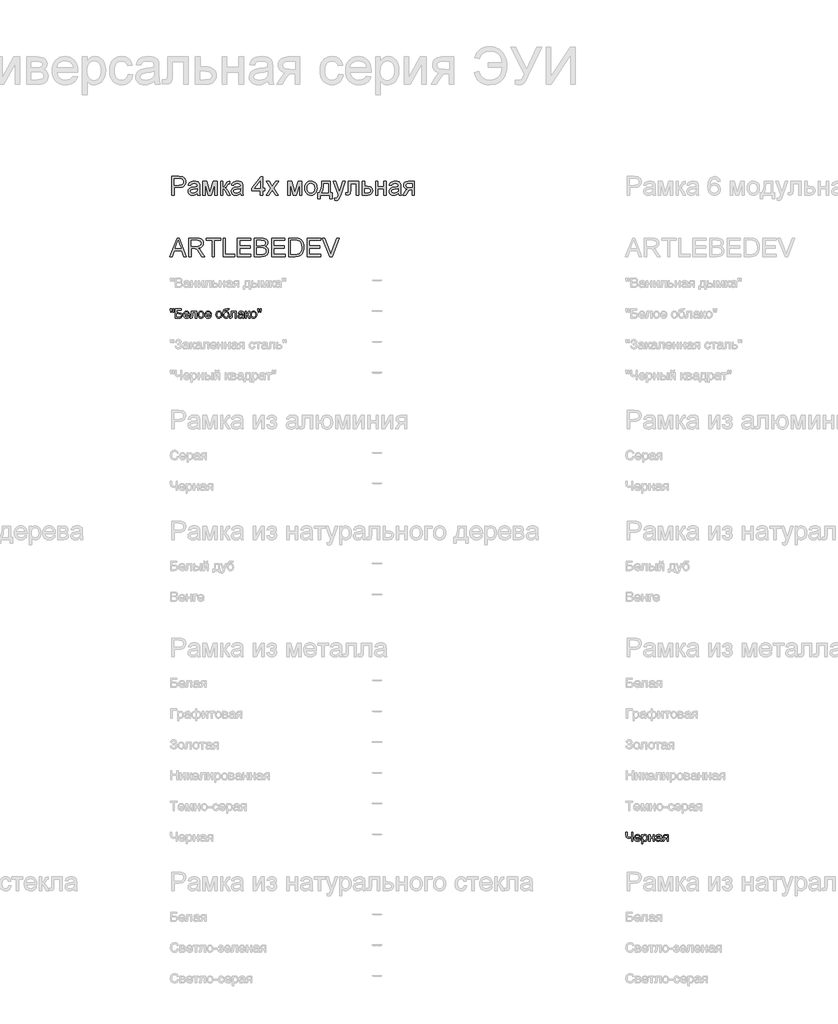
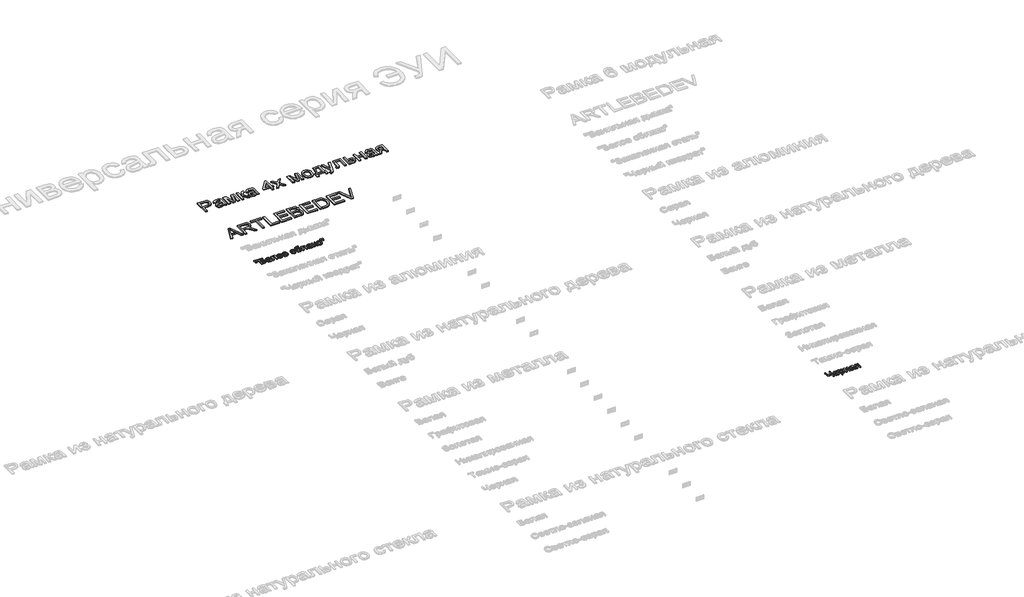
# One storey, part 120 of 168: 4 proxies.
"""IFC4 building model written with IfcOpenShell, lengths in millimetres."""

from ifc_helpers import new_model, si_unit, origin, origin_with_axes, place, context, project, spatial, polyline, outline, extrude, element, save

model = new_model("IFC4")

# Units and contexts
model_context = context("Model", 3, world=origin())
ifc_project = project(units=[si_unit("LENGTHUNIT", "METRE", prefix="MILLI")], contexts=[model_context])

# Site, building, storey
site = spatial("IfcSite", under=ifc_project)
building = spatial("IfcBuilding", under=site)
storey = spatial("IfcBuildingStorey", under=building, Name="Этаж 01", Elevation=0.0)

# Proxies
placement = place(None, origin())
element("IfcBuildingElementProxy", 1, Name="300 мм Arial 2", ObjectType="300 мм Arial 2", at=placement, inside=storey, context=model_context, shape_type="SweptSolid", body=[
    extrude(outline(polyline([(40299.0945017, -5048.4056816), (40299.0945017, -4747.0367511), (40410.7834754, -4747.0367511), (40455.8122316, -4749.9062307), (40475.8893915, -4755.2681108), (40492.4164901, -4763.9961111), (40505.7246213, -4776.4857048), (40516.1448788, -4793.1323651), (40522.8771193, -4812.7680666), (40525.1211995, -4834.224784), (40523.6059855, -4852.7246498), (40519.0603436, -4869.7437906), (40511.4842738, -4885.2822064), (40500.877776, -4899.3398971), (40486.3165468, -4910.9925593), (40466.8762826, -4919.3158895), (40442.5569835, -4924.3098875), (40413.3586494, -4925.9745536), (40336.765618, -4925.9745536), (40336.765618, -5048.4056816), (40299.0945017, -5048.4056816)]), holes=[polyline([(40336.765618, -4888.3034373), (40415.5659413, -4888.3034373), (40448.9696265, -4884.8453465), (40471.0425462, -4874.4710742), (40483.3481989, -4857.824414), (40487.4500832, -4835.5491592), (40485.0312591, -4818.6265874), (40477.7747867, -4804.352766), (40466.581977, -4793.6106117), (40452.3541408, -4787.2830414), (40414.6830245, -4784.7078674), (40336.765618, -4784.7078674), (40336.765618, -4888.3034373)])]), origin_with_axes(), (0.0, 0.0, 1.0), 20.0),
    extrude(outline(polyline([(40713.476781, -5020.1523443), (40695.4781544, -5035.584994), (40676.9460989, -5045.6833548), (40657.4575502, -5051.256767), (40636.589444, -5053.1145711), (40605.1079423, -5048.6448049), (40581.8853914, -5035.2355061), (40567.5655847, -5014.8732377), (40562.7923158, -4989.5445623), (40564.5949376, -4973.9279716), (40570.0028029, -4959.7461207), (40578.3445271, -4947.6060149), (40588.9487257, -4938.1146594), (40615.3258647, -4925.7538244), (40647.9202095, -4920.0884417), (40686.4374544, -4914.1287533), (40713.2560518, -4907.1389954), (40713.476781, -4898.7512859), (40710.883213, -4881.9390788), (40703.1025088, -4870.9394071), (40685.7016904, -4862.7724268), (40661.4582669, -4860.0501), (40639.0174652, -4861.8619189), (40623.3456922, -4867.2973753), (40612.6587202, -4877.3497509), (40605.1723216, -4893.0123268), (40567.5012053, -4888.3034373), (40574.0403078, -4867.7020455), (40583.7983777, -4851.5152378), (40597.685923, -4839.1360086), (40616.6134517, -4829.9573528), (40639.7624262, -4824.273576), (40666.3143092, -4822.3789837), (40691.7809404, -4824.0528468), (40711.9684648, -4829.074436), (40727.1895824, -4836.625214), (40737.7569927, -4845.8866432), (40744.7651447, -4857.3369703), (40749.3084874, -4871.4544419), (40751.1478973, -4904.4166687), (40751.1478973, -4951.2848348), (40753.0608837, -5016.7310418), (40760.5656764, -5048.4056816), (40722.8945601, -5048.4056816), (40713.476781, -5020.1523443)]), holes=[polyline([(40713.476781, -4944.8101117), (40652.7026754, -4956.3616064), (40620.2922716, -4962.4684475), (40605.61378, -4972.4012614), (40600.4634321, -4986.895812), (40603.2685323, -4998.0978187), (40611.683833, -5007.2764745), (40625.525393, -5013.4017097), (40644.6092715, -5015.4434548), (40664.8427813, -5013.1901776), (40682.7218462, -5006.4303459), (40697.2163968, -4996.4699409), (40707.2963635, -4984.6149436), (40711.7661297, -4972.4012614), (40713.2560518, -4955.4786896), (40713.476781, -4944.8101117)])]), origin_with_axes(), (0.0, 0.0, 1.0), 20.0),
    extrude(outline(polyline([(40802.9456823, -4827.0878733), (40867.7664898, -4827.0878733), (40917.7248647, -5004.2598421), (40971.5827888, -4827.0878733), (41033.6812696, -4827.0878733), (41033.6812696, -5048.4056816), (40996.0101533, -5048.4056816), (40996.0101533, -4870.2036431), (40941.8579236, -5048.4056816), (40892.4145835, -5048.4056816), (40840.6167986, -4861.6687808), (40840.6167986, -5048.4056816), (40802.9456823, -5048.4056816), (40802.9456823, -4827.0878733)])), origin_with_axes(), (0.0, 0.0, 1.0), 20.0),
    extrude(outline(polyline([(41090.1879441, -4827.0878733), (41127.8590604, -4827.0878733), (41127.8590604, -4921.265664), (41143.1813455, -4919.5734069), (41153.0957653, -4914.4966353), (41161.8697508, -4901.2528835), (41173.7707334, -4875.0596854), (41190.9508226, -4841.0306009), (41206.1075608, -4829.9573528), (41233.6619222, -4827.0878733), (41240.8724093, -4827.0878733), (41240.8724093, -4864.9797188), (41230.7188662, -4864.7589896), (41212.3247665, -4868.7321151), (41199.3753203, -4893.5273616), (41184.1817939, -4920.345959), (41162.8814263, -4933.4793463), (41174.8191971, -4938.7814455), (41186.6466032, -4948.1394438), (41209.9703217, -4979.0231373), (41250.2901884, -5048.4056816), (41207.4687241, -5048.4056816), (41167.9581979, -4980.4946653), (41148.0925701, -4951.7630814), (41138.8035497, -4946.5483542), (41127.8590604, -4944.8101117), (41127.8590604, -5048.4056816), (41090.1879441, -5048.4056816), (41090.1879441, -4827.0878733)])), origin_with_axes(), (0.0, 0.0, 1.0), 20.0),
    extrude(outline(polyline([(41415.1013222, -5020.1523443), (41397.1026956, -5035.584994), (41378.5706401, -5045.6833548), (41359.0820914, -5051.256767), (41338.2139852, -5053.1145711), (41306.7324835, -5048.6448049), (41283.5099326, -5035.2355061), (41269.1901259, -5014.8732377), (41264.416857, -4989.5445623), (41266.2194788, -4973.9279716), (41271.6273441, -4959.7461207), (41279.9690683, -4947.6060149), (41290.5732669, -4938.1146594), (41316.9504059, -4925.7538244), (41349.5447507, -4920.0884417), (41388.0619956, -4914.1287533), (41414.880593, -4907.1389954), (41415.1013222, -4898.7512859), (41412.5077542, -4881.9390788), (41404.72705, -4870.9394071), (41387.3262316, -4862.7724268), (41363.0828081, -4860.0501), (41340.6420064, -4861.8619189), (41324.9702334, -4867.2973753), (41314.2832614, -4877.3497509), (41306.7968628, -4893.0123268), (41269.1257465, -4888.3034373), (41275.664849, -4867.7020455), (41285.4229189, -4851.5152378), (41299.3104642, -4839.1360086), (41318.2379929, -4829.9573528), (41341.3869674, -4824.273576), (41367.9388504, -4822.3789837), (41393.4054816, -4824.0528468), (41413.593006, -4829.074436), (41428.8141236, -4836.625214), (41439.3815339, -4845.8866432), (41446.3896859, -4857.3369703), (41450.9330286, -4871.4544419), (41452.7724385, -4904.4166687), (41452.7724385, -4951.2848348), (41454.6854249, -5016.7310418), (41462.1902176, -5048.4056816), (41424.5191013, -5048.4056816), (41415.1013222, -5020.1523443)]), holes=[polyline([(41415.1013222, -4944.8101117), (41354.3272166, -4956.3616064), (41321.9168128, -4962.4684475), (41307.2383212, -4972.4012614), (41302.0879733, -4986.895812), (41304.8930735, -4998.0978187), (41313.3083742, -5007.2764745), (41327.1499342, -5013.4017097), (41346.2338127, -5015.4434548), (41366.4673225, -5013.1901776), (41384.3463874, -5006.4303459), (41398.840938, -4996.4699409), (41408.9209047, -4984.6149436), (41413.3906709, -4972.4012614), (41414.880593, -4955.4786896), (41415.1013222, -4944.8101117)])]), origin_with_axes(), (0.0, 0.0, 1.0), 20.0),
    extrude(outline(polyline([(41735.3058108, -5048.4056816), (41735.3058108, -4977.7723385), (41598.7480142, -4977.7723385), (41598.7480142, -4940.1012222), (41744.7235899, -4751.7456407), (41772.9769271, -4751.7456407), (41772.9769271, -4940.1012222), (41810.6480434, -4940.1012222), (41810.6480434, -4977.7723385), (41772.9769271, -4977.7723385), (41772.9769271, -5048.4056816), (41735.3058108, -5048.4056816)]), holes=[polyline([(41735.3058108, -4940.1012222), (41735.3058108, -4823.7033589), (41645.1011456, -4940.1012222), (41735.3058108, -4940.1012222)])]), origin_with_axes(), (0.0, 0.0, 1.0), 20.0),
    extrude(outline(polyline([(41829.4836016, -5048.4056816), (41909.9761821, -4937.1581662), (41834.1924911, -4827.0878733), (41879.5155529, -4827.0878733), (41916.0830233, -4880.0628806), (41933.1527478, -4905.0788562), (41947.941604, -4884.6246173), (41989.5858459, -4827.0878733), (42034.9089077, -4827.0878733), (41955.2992439, -4937.1581662), (42031.9658517, -5048.4056816), (41986.6427899, -5048.4056816), (41940.5103877, -4981.5247348), (41932.0491018, -4969.3110526), (41874.8066634, -5048.4056816), (41829.4836016, -5048.4056816)])), origin_with_axes(), (0.0, 0.0, 1.0), 20.0),
    extrude(outline(polyline([(42182.650317, -4827.0878733), (42247.4711245, -4827.0878733), (42297.4294995, -5004.2598421), (42351.2874236, -4827.0878733), (42413.3859043, -4827.0878733), (42413.3859043, -5048.4056816), (42375.714788, -5048.4056816), (42375.714788, -4870.2036431), (42321.5625583, -5048.4056816), (42272.1192182, -5048.4056816), (42220.3214333, -4861.6687808), (42220.3214333, -5048.4056816), (42182.650317, -5048.4056816), (42182.650317, -4827.0878733)])), origin_with_axes(), (0.0, 0.0, 1.0), 20.0),
    extrude(outline(polyline([(42460.4747997, -4937.7467774), (42462.5119463, -4909.0841715), (42468.6233859, -4884.385494), (42478.8091187, -4863.6507451), (42493.0691445, -4846.8799246), (42507.4257394, -4836.160763), (42523.2722563, -4828.504219), (42540.6086953, -4823.9102925), (42559.4350564, -4822.3789837), (42580.2180899, -4824.2436856), (42599.0099621, -4829.8377912), (42615.8106729, -4839.1613005), (42630.6202225, -4852.2142135), (42642.7074453, -4868.5550719), (42651.3411759, -4887.7424172), (42656.5214142, -4909.7762495), (42658.2481603, -4934.6565687), (42655.1947398, -4972.7139611), (42646.0344781, -5001.6846682), (42631.0340897, -5023.3805088), (42610.4602892, -5039.6133019), (42586.0237276, -5049.7392538), (42559.4350564, -5053.1145711), (42538.3485203, -5051.256767), (42519.3819042, -5045.6833548), (42502.5352081, -5036.3943344), (42487.808432, -5023.3897059), (42475.8499679, -5006.8901984), (42467.3082078, -4987.1165412), (42462.1831517, -4964.0687342), (42460.4747997, -4937.7467774)]), holes=[polyline([(42498.145916, -4937.673201), (42502.5053177, -4971.7666649), (42515.5835226, -4996.0560737), (42535.2652093, -5010.5966095), (42559.4350564, -5015.4434548), (42583.4945389, -5010.5690184), (42603.1394375, -4995.9457091), (42616.2176424, -4971.3344036), (42620.577044, -4936.4959786), (42616.1900512, -4903.3957961), (42603.0290729, -4879.4374812), (42583.3565832, -4864.8969453), (42559.4350564, -4860.0501), (42535.2652093, -4864.8785512), (42515.5835226, -4879.3639048), (42502.5053177, -4903.5981312), (42498.145916, -4937.673201)])]), origin_with_axes(), (0.0, 0.0, 1.0), 20.0),
    extrude(outline(polyline([(42733.5903929, -4827.0878733), (42874.8570791, -4827.0878733), (42874.8570791, -5010.7345653), (42903.1104163, -5010.7345653), (42903.1104163, -5109.6212456), (42865.4393, -5109.6212456), (42865.4393, -5048.4056816), (42710.0459452, -5048.4056816), (42710.0459452, -5109.6212456), (42672.3748289, -5109.6212456), (42672.3748289, -5010.7345653), (42695.9192766, -5010.7345653), (42713.0349865, -4979.8048865), (42725.0187425, -4938.8872116), (42731.8705446, -4887.9815405), (42733.5903929, -4827.0878733)]), holes=[polyline([(42766.5526197, -4864.7589896), (42763.4624109, -4910.8821947), (42757.7234518, -4950.5858591), (42749.3357423, -4983.8699826), (42738.2992825, -5010.7345653), (42837.1859628, -5010.7345653), (42837.1859628, -4864.7589896), (42766.5526197, -4864.7589896)])]), origin_with_axes(), (0.0, 0.0, 1.0), 20.0),
    extrude(outline(polyline([(42945.4904222, -5133.1656933), (42940.7815326, -5096.8925285), (42959.9113964, -5100.2034665), (42977.7904613, -5096.0463999), (42988.7533448, -5084.4581171), (42999.0540407, -5056.7198147), (43001.9970966, -5047.5963412), (42921.9459745, -4827.0878733), (42961.6772299, -4827.0878733), (43004.1308122, -4949.9604597), (43018.9196684, -4999.1094942), (43033.7085246, -4955.6994188), (43077.3393292, -4827.0878733), (43116.7762791, -4827.0878733), (43039.7417893, -5053.7031823), (43019.7290088, -5102.8522169), (43009.4834952, -5118.5423839), (42997.8768183, -5129.4132969), (42984.3939432, -5135.7592613), (42968.5198351, -5137.8745828), (42945.4904222, -5133.1656933)])), origin_with_axes(), (0.0, 0.0, 1.0), 20.0),
    extrude(outline(polyline([(43166.8082305, -4827.0878733), (43336.3282538, -4827.0878733), (43336.3282538, -5048.1849524), (43298.6571375, -5048.1849524), (43298.6571375, -4864.7589896), (43204.4793468, -4864.7589896), (43204.4793468, -4970.3411222), (43201.940961, -5019.0486984), (43197.1860862, -5030.0759612), (43187.9982334, -5039.6133019), (43174.0555058, -5046.2075866), (43155.0360066, -5048.4056816), (43124.4282246, -5046.4926952), (43124.4282246, -5010.7345653), (43141.27722, -5010.7345653), (43158.3101564, -5008.4169087), (43165.1159733, -5001.0592688), (43166.8082305, -4968.2074066), (43166.8082305, -4827.0878733)])), origin_with_axes(), (0.0, 0.0, 1.0), 20.0),
    extrude(outline(polyline([(43392.8349283, -4827.0878733), (43430.5060446, -4827.0878733), (43430.5060446, -4907.1389954), (43473.91612, -4907.1389954), (43511.5504481, -4911.857082), (43526.6979893, -4917.7546902), (43539.3991152, -4926.0113418), (43549.4422936, -4936.3419281), (43556.6159925, -4948.4613405), (43562.3549517, -4978.0666441), (43557.4713182, -5005.0231973), (43542.8204177, -5027.7675016), (43531.5885206, -5036.7967054), (43517.427363, -5043.2461366), (43480.3172667, -5048.4056816), (43392.8349283, -5048.4056816), (43392.8349283, -4827.0878733)]), holes=[polyline([(43430.5060446, -5010.7345653), (43465.6755633, -5010.7345653), (43492.9632103, -5008.7571995), (43511.1089897, -5002.8251024), (43521.290124, -4992.6991504), (43524.6838354, -4978.1402205), (43522.1730408, -4965.8345678), (43514.6406569, -4954.9636548), (43498.4998344, -4947.3484975), (43470.1637237, -4944.8101117), (43430.5060446, -4944.8101117), (43430.5060446, -5010.7345653)])]), origin_with_axes(), (0.0, 0.0, 1.0), 20.0),
    extrude(outline(polyline([(43609.4438471, -4827.0878733), (43647.1149634, -4827.0878733), (43647.1149634, -4911.847885), (43746.0016437, -4911.847885), (43746.0016437, -4827.0878733), (43783.67276, -4827.0878733), (43783.67276, -5048.4056816), (43746.0016437, -5048.4056816), (43746.0016437, -4949.5190013), (43647.1149634, -4949.5190013), (43647.1149634, -5048.4056816), (43609.4438471, -5048.4056816), (43609.4438471, -4827.0878733)])), origin_with_axes(), (0.0, 0.0, 1.0), 20.0),
    extrude(outline(polyline([(43981.4461206, -5020.1523443), (43963.447494, -5035.584994), (43944.9154385, -5045.6833548), (43925.4268898, -5051.256767), (43904.5587836, -5053.1145711), (43873.0772819, -5048.6448049), (43849.8547309, -5035.2355061), (43835.5349242, -5014.8732377), (43830.7616554, -4989.5445623), (43832.5642771, -4973.9279716), (43837.9721425, -4959.7461207), (43846.3138667, -4947.6060149), (43856.9180652, -4938.1146594), (43883.2952043, -4925.7538244), (43915.889549, -4920.0884417), (43954.4067939, -4914.1287533), (43981.2253914, -4907.1389954), (43981.4461206, -4898.7512859), (43978.8525525, -4881.9390788), (43971.0718483, -4870.9394071), (43953.6710299, -4862.7724268), (43929.4276065, -4860.0501), (43906.9868048, -4861.8619189), (43891.3150318, -4867.2973753), (43880.6280598, -4877.3497509), (43873.1416612, -4893.0123268), (43835.4705449, -4888.3034373), (43842.0096474, -4867.7020455), (43851.7677173, -4851.5152378), (43865.6552626, -4839.1360086), (43884.5827912, -4829.9573528), (43907.7317658, -4824.273576), (43934.2836488, -4822.3789837), (43959.7502799, -4824.0528468), (43979.9378044, -4829.074436), (43995.1589219, -4836.625214), (44005.7263323, -4845.8866432), (44012.7344843, -4857.3369703), (44017.2778269, -4871.4544419), (44019.1172369, -4904.4166687), (44019.1172369, -4951.2848348), (44021.0302233, -5016.7310418), (44028.535016, -5048.4056816), (43990.8638997, -5048.4056816), (43981.4461206, -5020.1523443)]), holes=[polyline([(43981.4461206, -4944.8101117), (43920.672015, -4956.3616064), (43888.2616112, -4962.4684475), (43873.5831196, -4972.4012614), (43868.4327717, -4986.895812), (43871.2378719, -4998.0978187), (43879.6531725, -5007.2764745), (43893.4947326, -5013.4017097), (43912.5786111, -5015.4434548), (43932.8121208, -5013.1901776), (43950.6911858, -5006.4303459), (43965.1857364, -4996.4699409), (43975.2657031, -4984.6149436), (43979.7354693, -4972.4012614), (43981.2253914, -4955.4786896), (43981.4461206, -4944.8101117)])]), origin_with_axes(), (0.0, 0.0, 1.0), 20.0),
    extrude(outline(polyline([(44240.4350452, -4827.0878733), (44240.4350452, -5048.4056816), (44202.7639289, -5048.4056816), (44202.7639289, -4963.6456699), (44182.2361135, -4963.6456699), (44154.2770819, -4968.4281358), (44143.1118634, -4978.8575904), (44128.0103075, -5000.5810222), (44097.9911367, -5048.4056816), (44054.4339084, -5048.4056816), (44092.2521775, -4987.9258816), (44108.9540201, -4966.2208438), (44124.3314875, -4956.5823356), (44098.5797478, -4948.6912668), (44080.4799537, -4933.7000755), (44069.7745876, -4913.7608713), (44066.2061323, -4891.025764), (44071.0805687, -4865.2372362), (44085.703878, -4844.8197854), (44109.5610254, -4831.5208513), (44142.1369761, -4827.0878733), (44240.4350452, -4827.0878733)]), holes=[polyline([(44202.7639289, -4864.7589896), (44153.0998595, -4864.7589896), (44127.4492874, -4866.9386904), (44112.8903575, -4873.4777929), (44106.1305258, -4882.9415572), (44103.8772486, -4893.8952436), (44107.1973836, -4908.2518385), (44117.1577886, -4918.2122435), (44135.5610854, -4924.033976), (44164.2098958, -4925.9745536), (44202.7639289, -4925.9745536), (44202.7639289, -4864.7589896)])]), origin_with_axes(), (0.0, 0.0, 1.0), 20.0),
])
element("IfcBuildingElementProxy", 2, Name="300 мм Arial 2", ObjectType="300 мм Arial 2", at=placement, inside=storey, context=model_context, shape_type="SweptSolid", body=[
    extrude(outline(polyline([(40263.9985593, -6048.4056816), (40384.2959717, -5747.0367511), (40416.3752817, -5747.0367511), (40536.6726941, -6048.4056816), (40496.8678623, -6048.4056816), (40462.3605311, -5954.2278908), (40338.2371459, -5954.2278908), (40303.8033912, -6048.4056816), (40263.9985593, -6048.4056816)]), holes=[polyline([(40352.069509, -5916.5567745), (40448.6017445, -5916.5567745), (40421.4520533, -5842.4653407), (40400.3356267, -5784.7078674), (40381.573645, -5835.9906176), (40352.069509, -5916.5567745)])]), origin_with_axes(), (0.0, 0.0, 1.0), 20.0),
    extrude(outline(polyline([(40576.9189844, -6048.4056816), (40576.9189844, -5747.0367511), (40706.7813287, -5747.0367511), (40741.684133, -5749.0692991), (40767.0771877, -5755.1669432), (40785.6368344, -5766.4241323), (40800.0394145, -5783.9353152), (40809.2824496, -5805.64955), (40812.3634613, -5829.5158944), (40807.2590986, -5859.2039714), (40791.9460106, -5883.8152769), (40780.3462314, -5893.8446598), (40765.9643447, -5901.8598888), (40728.8542484, -5911.847885), (40750.2649805, -5927.9611163), (40780.7991861, -5966.7358786), (40831.0518667, -6048.4056816), (40787.2739093, -6048.4056816), (40748.0576886, -5985.9393188), (40719.7307749, -5944.5893825), (40699.828359, -5925.0548486), (40681.9125058, -5917.8811497), (40660.0603153, -5916.5567745), (40614.5901007, -5916.5567745), (40614.5901007, -6048.4056816), (40576.9189844, -6048.4056816)]), holes=[polyline([(40614.5901007, -5878.8856582), (40698.908654, -5878.8856582), (40723.1244863, -5877.552086), (40741.9140593, -5873.5513693), (40756.059122, -5866.6167937), (40766.3414237, -5856.4816447), (40772.6046147, -5844.2219772), (40774.692345, -5830.913846), (40770.7100224, -5812.5381404), (40758.7630546, -5797.7308901), (40738.2076482, -5787.9636231), (40708.4000095, -5784.7078674), (40614.5901007, -5784.7078674), (40614.5901007, -5878.8856582)])]), origin_with_axes(), (0.0, 0.0, 1.0), 20.0),
    extrude(outline(polyline([(40953.6301475, -6048.4056816), (40953.6301475, -5784.7078674), (40854.7434672, -5784.7078674), (40854.7434672, -5747.0367511), (41090.1879441, -5747.0367511), (41090.1879441, -5784.7078674), (40991.3012638, -5784.7078674), (40991.3012638, -6048.4056816), (40953.6301475, -6048.4056816)])), origin_with_axes(), (0.0, 0.0, 1.0), 20.0),
    extrude(outline(polyline([(41132.5679499, -6048.4056816), (41132.5679499, -5747.0367511), (41170.2390662, -5747.0367511), (41170.2390662, -6010.7345653), (41320.9235315, -6010.7345653), (41320.9235315, -6048.4056816), (41132.5679499, -6048.4056816)])), origin_with_axes(), (0.0, 0.0, 1.0), 20.0),
    extrude(outline(polyline([(41363.3035373, -6048.4056816), (41363.3035373, -5747.0367511), (41579.9124561, -5747.0367511), (41579.9124561, -5784.7078674), (41400.9746536, -5784.7078674), (41400.9746536, -5874.1767687), (41570.494677, -5874.1767687), (41570.494677, -5911.847885), (41400.9746536, -5911.847885), (41400.9746536, -6010.7345653), (41584.6213456, -6010.7345653), (41584.6213456, -6048.4056816), (41363.3035373, -6048.4056816)])), origin_with_axes(), (0.0, 0.0, 1.0), 20.0),
    extrude(outline(polyline([(41641.1280201, -6048.4056816), (41641.1280201, -5747.0367511), (41756.1279318, -5747.0367511), (41787.7565863, -5749.2532401), (41812.4506652, -5755.9027072), (41831.3781939, -5767.1506992), (41845.7071976, -5783.162763), (41854.7295035, -5801.9983212), (41857.7369388, -5821.7167961), (41855.2077501, -5839.8625756), (41847.620184, -5856.9231031), (41834.9190581, -5871.849915), (41817.0491902, -5883.5945477), (41838.3955429, -5894.7413722), (41854.1684835, -5911.7007322), (41863.9081593, -5933.3505876), (41867.1547179, -5958.5688983), (41864.9382289, -5979.5841573), (41858.2887618, -5999.072706), (41848.365145, -6015.6457899), (41836.3262067, -6027.9146544), (41821.5833357, -6036.7990046), (41803.5479209, -6043.2185454), (41755.245015, -6048.4056816), (41641.1280201, -6048.4056816)]), holes=[polyline([(41678.7991364, -5869.4678791), (41747.5930695, -5869.4678791), (41787.7657833, -5866.2305176), (41801.8280726, -5860.6479083), (41811.9356304, -5852.2877899), (41818.0332745, -5841.2789212), (41820.0658225, -5827.7500609), (41818.1712302, -5814.6166736), (41812.4874534, -5803.1755436), (41803.2720094, -5794.2452082), (41790.7824157, -5788.6442048), (41742.3691451, -5784.7078674), (41678.7991364, -5784.7078674), (41678.7991364, -5869.4678791)]), polyline([(41678.7991364, -6010.7345653), (41756.0543554, -6010.7345653), (41784.013387, -6009.2630373), (41807.6681993, -6001.0592688), (41823.3399723, -5984.320638), (41827.9476943, -5972.4932319), (41829.4836016, -5958.9367803), (41827.6809798, -5943.1914309), (41822.2731145, -5929.6533735), (41812.8277443, -5919.0675691), (41798.9126078, -5912.1789788), (41779.2033299, -5908.3989913), (41752.3755354, -5907.1389954), (41678.7991364, -5907.1389954), (41678.7991364, -6010.7345653)])]), origin_with_axes(), (0.0, 0.0, 1.0), 20.0),
    extrude(outline(polyline([(41918.9525028, -6048.4056816), (41918.9525028, -5747.0367511), (42135.5614216, -5747.0367511), (42135.5614216, -5784.7078674), (41956.6236191, -5784.7078674), (41956.6236191, -5874.1767687), (42126.1436425, -5874.1767687), (42126.1436425, -5911.847885), (41956.6236191, -5911.847885), (41956.6236191, -6010.7345653), (42140.2703111, -6010.7345653), (42140.2703111, -6048.4056816), (41918.9525028, -6048.4056816)])), origin_with_axes(), (0.0, 0.0, 1.0), 20.0),
    extrude(outline(polyline([(42196.7769856, -6048.4056816), (42196.7769856, -5747.0367511), (42300.7404374, -5747.0367511), (42354.5247851, -5751.3777587), (42378.5474794, -5759.7470741), (42398.8177773, -5772.9356436), (42419.6582924, -5795.8914801), (42434.5023309, -5824.4391229), (42443.386681, -5858.0267491), (42446.3481311, -5896.1025356), (42444.3431742, -5928.44856), (42438.3283036, -5956.9134294), (42429.1680419, -5981.1476558), (42417.7269119, -6000.8017514), (42404.5567365, -6016.3171745), (42390.2093386, -6028.1353836), (42373.7374223, -6036.9001722), (42354.1936913, -6043.2553336), (42305.7436325, -6048.4056816), (42196.7769856, -6048.4056816)]), holes=[polyline([(42234.4481019, -6010.7345653), (42301.1083194, -6010.7345653), (42328.6810749, -6009.3734019), (42349.5951664, -6005.2899117), (42365.377304, -5998.7232181), (42377.554198, -5989.9124443), (42390.6416, -5973.6060749), (42400.4732463, -5952.4988454), (42406.6260727, -5926.4987854), (42408.6770148, -5895.5139244), (42404.657904, -5854.4582937), (42392.6005716, -5824.1448173), (42374.785886, -5803.3226964), (42353.4947155, -5790.7411321), (42331.826466, -5786.2161836), (42300.0782498, -5784.7078674), (42234.4481019, -5784.7078674), (42234.4481019, -6010.7345653)])]), origin_with_axes(), (0.0, 0.0, 1.0), 20.0),
    extrude(outline(polyline([(42498.145916, -6048.4056816), (42498.145916, -5747.0367511), (42714.7548348, -5747.0367511), (42714.7548348, -5784.7078674), (42535.8170323, -5784.7078674), (42535.8170323, -5874.1767687), (42705.3370557, -5874.1767687), (42705.3370557, -5911.847885), (42535.8170323, -5911.847885), (42535.8170323, -6010.7345653), (42719.4637243, -6010.7345653), (42719.4637243, -6048.4056816), (42498.145916, -6048.4056816)])), origin_with_axes(), (0.0, 0.0, 1.0), 20.0),
    extrude(outline(polyline([(42864.9978416, -6048.4056816), (42745.0683112, -5747.0367511), (42785.3881779, -5747.0367511), (42865.6600292, -5964.1607047), (42881.9204134, -6013.08901), (42897.9600684, -5964.1607047), (42978.4526489, -5747.0367511), (43018.7725156, -5747.0367511), (42903.9197567, -6048.4056816), (42864.9978416, -6048.4056816)])), origin_with_axes(), (0.0, 0.0, 1.0), 20.0),
])
element("IfcBuildingElementProxy", 3, Name="150", ObjectType="150", at=placement, inside=storey, context=model_context, shape_type="SweptSolid", body=[
    extrude(outline(polyline([(40280.1485789, -6951.873446), (40275.550054, -6922.7739802), (40275.550054, -6897.7212163), (40294.3856121, -6897.7212163), (40294.3856121, -6922.7739802), (40290.2653338, -6951.873446), (40280.1485789, -6951.873446)])), origin_with_axes(), (0.0, 0.0, 1.0), 20.0),
    extrude(outline(polyline([(40317.7093306, -6951.873446), (40313.2211703, -6922.7739802), (40313.2211703, -6897.7212163), (40332.0567284, -6897.7212163), (40332.0567284, -6922.7739802), (40327.6421445, -6951.873446), (40317.7093306, -6951.873446)])), origin_with_axes(), (0.0, 0.0, 1.0), 20.0),
    extrude(outline(polyline([(40357.9556209, -6897.7212163), (40452.1334117, -6897.7212163), (40452.1334117, -6916.5567745), (40376.791179, -6916.5567745), (40376.791179, -6961.2912251), (40412.0710624, -6961.2912251), (40443.157091, -6965.1171979), (40453.5589544, -6970.6446248), (40461.6615553, -6979.5749603), (40466.8762826, -6991.0712726), (40468.614525, -7004.2966303), (40463.6665122, -7025.7625448), (40448.8960501, -7042.0781113), (40435.6247071, -7046.823789), (40415.4555767, -7048.4056816), (40357.9556209, -7048.4056816), (40357.9556209, -6897.7212163)]), holes=[polyline([(40376.791179, -7029.5701234), (40417.1478339, -7029.5701234), (40431.4124583, -7028.015822), (40441.6119866, -7023.3529177), (40447.7372218, -7015.5814105), (40449.7789669, -7004.7013005), (40445.1068655, -6989.9492325), (40432.102237, -6982.0765578), (40403.7201411, -6980.1267833), (40376.791179, -6980.1267833), (40376.791179, -7029.5701234)])]), origin_with_axes(), (0.0, 0.0, 1.0), 20.0),
    extrude(outline(polyline([(40569.6349209, -7015.4434548), (40588.1025971, -7017.7978996), (40581.4485315, -7031.713036), (40570.8305374, -7042.1148995), (40556.4877381, -7048.5988196), (40538.6592569, -7050.7601263), (40516.5587461, -7047.0307226), (40499.5534008, -7035.8425114), (40488.710079, -7017.9220597), (40485.0956384, -6993.9959345), (40488.7468672, -6969.2650674), (40499.7005536, -6950.7698), (40516.4759726, -6939.2366995), (40537.5923991, -6935.3923327), (40558.0512366, -6939.2275025), (40574.3989927, -6950.7330118), (40585.1181544, -6969.191491), (40588.6912083, -6993.8855699), (40588.5808437, -6998.9623414), (40503.9311966, -6998.9623414), (40507.1915508, -7013.0614189), (40514.7653213, -7023.4264941), (40525.6960151, -7029.8000497), (40539.0271389, -7031.9245682), (40557.4948151, -7027.9882308), (40569.6349209, -7015.4434548)]), holes=[polyline([(40503.9311966, -6980.1267833), (40569.8556501, -6980.1267833), (40567.3080673, -6970.1755753), (40562.3140692, -6963.0570587), (40551.3327917, -6956.4351828), (40537.5188227, -6954.2278908), (40524.8222954, -6955.9891259), (40514.3238629, -6961.272831), (40507.0260039, -6969.5087892), (40503.9311966, -6980.1267833)])]), origin_with_axes(), (0.0, 0.0, 1.0), 20.0),
    extrude(outline(polyline([(40616.9445455, -6937.7467774), (40701.7045572, -6937.7467774), (40701.7045572, -7048.295317), (40682.868999, -7048.295317), (40682.868999, -6956.5823356), (40635.7801036, -6956.5823356), (40635.7801036, -7009.3734019), (40634.5109108, -7033.72719), (40627.539547, -7044.0094917), (40611.0584336, -7048.4056816), (40595.7545426, -7047.4491884), (40595.7545426, -7029.5701234), (40604.1790403, -7029.5701234), (40612.6955084, -7028.4112951), (40616.0984169, -7024.7324752), (40616.9445455, -7008.3065441), (40616.9445455, -6937.7467774)])), origin_with_axes(), (0.0, 0.0, 1.0), 20.0),
    extrude(outline(polyline([(40725.2490049, -6993.0762295), (40729.323298, -6966.3955878), (40741.5461773, -6947.6428031), (40756.6477332, -6938.4549503), (40774.7291332, -6935.3923327), (40794.516586, -6939.1217364), (40810.3217163, -6950.3099476), (40820.6821929, -6968.0740494), (40824.1356852, -6991.5311251), (40822.6089749, -7010.5598213), (40818.0288441, -7025.0451749), (40810.5286499, -7035.8930952), (40800.2417496, -7044.0094917), (40788.0234688, -7049.0724677), (40774.7291332, -7050.7601263), (40754.7025571, -7047.0445182), (40738.915821, -7035.8976937), (40728.6657089, -7017.7611114), (40725.2490049, -6993.0762295)]), holes=[polyline([(40744.084563, -6993.0394413), (40746.2642638, -7010.0861732), (40752.8033663, -7022.2308776), (40762.6442097, -7029.5011455), (40774.7291332, -7031.9245682), (40786.7588745, -7029.48735), (40796.5813237, -7022.1756953), (40803.1204262, -7009.8700426), (40805.300127, -6992.4508301), (40803.1066306, -6975.9007388), (40796.5261414, -6963.9215814), (40786.6898966, -6956.6513134), (40774.7291332, -6954.2278908), (40762.6442097, -6956.6421164), (40752.8033663, -6963.8847932), (40746.2642638, -6976.0019064), (40744.084563, -6993.0394413)])]), origin_with_axes(), (0.0, 0.0, 1.0), 20.0),
    extrude(outline(polyline([(40922.8016363, -7015.4434548), (40941.2693124, -7017.7978996), (40934.6152469, -7031.713036), (40923.9972528, -7042.1148995), (40909.6544535, -7048.5988196), (40891.8259723, -7050.7601263), (40869.7254614, -7047.0307226), (40852.7201162, -7035.8425114), (40841.8767944, -7017.9220597), (40838.2623538, -6993.9959345), (40841.9135826, -6969.2650674), (40852.867269, -6950.7698), (40869.642688, -6939.2366995), (40890.7591145, -6935.3923327), (40911.217952, -6939.2275025), (40927.5657081, -6950.7330118), (40938.2848698, -6969.191491), (40941.8579236, -6993.8855699), (40941.747559, -6998.9623414), (40857.0979119, -6998.9623414), (40860.3582661, -7013.0614189), (40867.9320367, -7023.4264941), (40878.8627305, -7029.8000497), (40892.1938543, -7031.9245682), (40910.6615304, -7027.9882308), (40922.8016363, -7015.4434548)]), holes=[polyline([(40857.0979119, -6980.1267833), (40923.0223655, -6980.1267833), (40920.4747827, -6970.1755753), (40915.4807846, -6963.0570587), (40904.499507, -6956.4351828), (40890.6855381, -6954.2278908), (40877.9890107, -6955.9891259), (40867.4905783, -6961.272831), (40860.1927192, -6969.5087892), (40857.0979119, -6980.1267833)])]), origin_with_axes(), (0.0, 0.0, 1.0), 20.0),
    extrude(outline(polyline([(41014.8457115, -6993.0762295), (41018.9200046, -6966.3955878), (41031.1428839, -6947.6428031), (41046.2444398, -6938.4549503), (41064.3258398, -6935.3923327), (41084.1132926, -6939.1217364), (41099.9184229, -6950.3099476), (41110.2788995, -6968.0740494), (41113.7323918, -6991.5311251), (41112.2056815, -7010.5598213), (41107.6255507, -7025.0451749), (41100.1253565, -7035.8930952), (41089.8384562, -7044.0094917), (41077.6201754, -7049.0724677), (41064.3258398, -7050.7601263), (41044.2992637, -7047.0445182), (41028.5125276, -7035.8976937), (41018.2624155, -7017.7611114), (41014.8457115, -6993.0762295)]), holes=[polyline([(41033.6812696, -6993.0394413), (41035.8609704, -7010.0861732), (41042.4000729, -7022.2308776), (41052.2409163, -7029.5011455), (41064.3258398, -7031.9245682), (41076.3555811, -7029.48735), (41086.1780303, -7022.1756953), (41092.7171328, -7009.8700426), (41094.8968336, -6992.4508301), (41092.7033372, -6975.9007388), (41086.122848, -6963.9215814), (41076.2866032, -6956.6513134), (41064.3258398, -6954.2278908), (41052.2409163, -6956.6421164), (41042.4000729, -6963.8847932), (41035.8609704, -6976.0019064), (41033.6812696, -6993.0394413)])]), origin_with_axes(), (0.0, 0.0, 1.0), 20.0),
    extrude(outline(polyline([(41212.6190721, -6895.3667716), (41229.1001855, -6895.3667716), (41224.2441431, -6910.0636573), (41214.6424231, -6915.3795521), (41191.576222, -6916.5567745), (41160.5085875, -6920.897782), (41153.3808738, -6926.5447707), (41148.5892108, -6934.8037215), (41144.560903, -6959.4150269), (41160.8764695, -6941.3888092), (41170.7954878, -6936.8914518), (41181.9009255, -6935.3923327), (41201.4998388, -6939.2045098), (41217.401538, -6950.6410414), (41227.9413572, -6968.5798871), (41231.4546302, -6991.8990071), (41229.7117893, -7009.8792396), (41224.4832664, -7024.3094109), (41207.9469707, -7043.8623389), (41196.6529935, -7049.0356795), (41181.9009255, -7050.7601263), (41164.9001788, -7048.5390388), (41152.1576662, -7041.8757762), (41142.7812738, -7031.7498242), (41135.8788879, -7019.1406689), (41131.6298508, -7000.1533594), (41130.2135052, -6970.8929452), (41133.786559, -6934.7531377), (41144.5057207, -6912.7124076), (41162.6377045, -6901.4690142), (41188.449225, -6897.7212163), (41209.4184987, -6897.2981521), (41212.6190721, -6895.3667716)]), holes=[polyline([(41212.6190721, -6991.3103959), (41210.577327, -6976.48935), (41204.4520918, -6964.6205572), (41194.6112484, -6956.8260574), (41181.4226789, -6954.2278908), (41167.6730893, -6956.9732102), (41157.473561, -6965.2091684), (41151.1551877, -6978.0344544), (41149.0490633, -6994.5477575), (41151.3759169, -7010.5552228), (41158.3564778, -7022.304454), (41168.7491442, -7029.5195396), (41181.3123143, -7031.9245682), (41193.9398638, -7029.1424606), (41203.937057, -7020.7961378), (41210.4485683, -7007.8604872), (41212.6190721, -6991.3103959)])]), origin_with_axes(), (0.0, 0.0, 1.0), 20.0),
    extrude(outline(polyline([(41264.416857, -6937.7467774), (41349.1768687, -6937.7467774), (41349.1768687, -7048.295317), (41330.3413105, -7048.295317), (41330.3413105, -6956.5823356), (41283.2524152, -6956.5823356), (41283.2524152, -7009.3734019), (41281.9832223, -7033.72719), (41275.0118585, -7044.0094917), (41258.5307451, -7048.4056816), (41243.2268541, -7047.4491884), (41243.2268541, -7029.5701234), (41251.6513518, -7029.5701234), (41260.16782, -7028.4112951), (41263.5707284, -7024.7324752), (41264.416857, -7008.3065441), (41264.416857, -6937.7467774)])), origin_with_axes(), (0.0, 0.0, 1.0), 20.0),
    extrude(outline(polyline([(41448.063549, -7034.279013), (41429.7982079, -7047.0445182), (41409.6198805, -7050.7601263), (41393.8791296, -7048.5252432), (41382.2678542, -7041.8205939), (41375.1079508, -7031.6394596), (41372.7213164, -7018.975122), (41376.3265599, -7004.0759012), (41385.7995213, -6993.2601705), (41398.9880908, -6987.079753), (41415.2852632, -6984.2470616), (41447.9531844, -6977.7723385), (41448.063549, -6973.5784838), (41446.766765, -6965.1723802), (41442.8764129, -6959.6725443), (41434.1760037, -6955.5890542), (41422.0542919, -6954.2278908), (41402.9980046, -6957.8515285), (41393.9113193, -6970.7090042), (41375.0757612, -6968.3545594), (41383.2243473, -6949.9604597), (41399.6318843, -6939.1815172), (41424.4823131, -6935.3923327), (41447.3093909, -6938.7400588), (41460.2036548, -6947.1461624), (41465.9794022, -6959.9300617), (41466.8991071, -6976.4111751), (41466.8991071, -6999.8452582), (41467.8556003, -7032.5683617), (41471.6079967, -7048.4056816), (41452.7724385, -7048.4056816), (41448.063549, -7034.279013)]), holes=[polyline([(41448.063549, -6996.6078966), (41417.6764962, -7002.383644), (41401.4712943, -7005.4370645), (41394.1320485, -7010.4034715), (41391.5568745, -7017.6507468), (41397.167075, -7027.841078), (41413.6297942, -7031.9245682), (41432.6860816, -7027.4180137), (41444.9733402, -7016.5103126), (41447.9531844, -7001.9421856), (41448.063549, -6996.6078966)])]), origin_with_axes(), (0.0, 0.0, 1.0), 20.0),
    extrude(outline(polyline([(41492.7979996, -6937.7467774), (41511.6335578, -6937.7467774), (41511.6335578, -6984.8356728), (41524.2519102, -6981.4511584), (41534.5893943, -6961.7326835), (41543.1794388, -6944.7181412), (41550.7578079, -6939.1815172), (41564.5349887, -6937.7467774), (41568.1402322, -6937.7467774), (41568.1402322, -6956.6927002), (41563.0634607, -6956.5823356), (41553.8664108, -6958.5688983), (41547.3916877, -6970.9665216), (41539.7949245, -6984.3758203), (41529.1447407, -6990.9425139), (41541.0273292, -6998.2725627), (41552.6891884, -7013.7144094), (41572.8491218, -7048.4056816), (41551.4383896, -7048.4056816), (41531.6831265, -7014.4501734), (41521.7503126, -7000.0843815), (41511.6335578, -6996.6078966), (41511.6335578, -7048.4056816), (41492.7979996, -7048.4056816), (41492.7979996, -6937.7467774)])), origin_with_axes(), (0.0, 0.0, 1.0), 20.0),
    extrude(outline(polyline([(41579.9124561, -6993.0762295), (41583.9867492, -6966.3955878), (41596.2096285, -6947.6428031), (41611.3111844, -6938.4549503), (41629.3925844, -6935.3923327), (41649.1800372, -6939.1217364), (41664.9851674, -6950.3099476), (41675.3456441, -6968.0740494), (41678.7991364, -6991.5311251), (41677.2724261, -7010.5598213), (41672.6922952, -7025.0451749), (41665.1921011, -7035.8930952), (41654.9052008, -7044.0094917), (41642.68692, -7049.0724677), (41629.3925844, -7050.7601263), (41609.3660083, -7047.0445182), (41593.5792722, -7035.8976937), (41583.3291601, -7017.7611114), (41579.9124561, -6993.0762295)]), holes=[polyline([(41598.7480142, -6993.0394413), (41600.927715, -7010.0861732), (41607.4668175, -7022.2308776), (41617.3076609, -7029.5011455), (41629.3925844, -7031.9245682), (41641.4223257, -7029.48735), (41651.2447749, -7022.1756953), (41657.7838774, -7009.8700426), (41659.9635782, -6992.4508301), (41657.7700818, -6975.9007388), (41651.1895926, -6963.9215814), (41641.3533478, -6956.6513134), (41629.3925844, -6954.2278908), (41617.3076609, -6956.6421164), (41607.4668175, -6963.8847932), (41600.927715, -6976.0019064), (41598.7480142, -6993.0394413)])]), origin_with_axes(), (0.0, 0.0, 1.0), 20.0),
    extrude(outline(polyline([(41699.8787747, -6951.873446), (41695.2802498, -6922.7739802), (41695.2802498, -6897.7212163), (41714.1158079, -6897.7212163), (41714.1158079, -6922.7739802), (41709.9955296, -6951.873446), (41699.8787747, -6951.873446)])), origin_with_axes(), (0.0, 0.0, 1.0), 20.0),
    extrude(outline(polyline([(41737.4395264, -6951.873446), (41732.9513661, -6922.7739802), (41732.9513661, -6897.7212163), (41751.7869242, -6897.7212163), (41751.7869242, -6922.7739802), (41747.3723403, -6951.873446), (41737.4395264, -6951.873446)])), origin_with_axes(), (0.0, 0.0, 1.0), 20.0),
])
element("IfcBuildingElementProxy", 4, Name="150", ObjectType="150", at=placement, inside=storey, context=model_context, shape_type="SweptSolid", body=[
    extrude(outline(polyline([(47788.5634029, -15548.4056816), (47769.7278447, -15548.4056816), (47769.7278447, -15488.0730344), (47744.7486573, -15496.2400147), (47723.0804077, -15498.9623414), (47708.3973176, -15497.0999388), (47695.5444404, -15491.512731), (47685.5840354, -15483.0606422), (47679.5783618, -15472.6035965), (47675.550054, -15442.6028198), (47675.550054, -15397.7212163), (47694.3856121, -15397.7212163), (47694.3856121, -15440.064434), (47696.6480864, -15460.4313009), (47703.4355092, -15472.3828673), (47713.3959142, -15478.1908043), (47725.1773351, -15480.1267833), (47746.909964, -15477.7907326), (47769.7278447, -15470.7825806), (47769.7278447, -15397.7212163), (47788.5634029, -15397.7212163), (47788.5634029, -15548.4056816)])), origin_with_axes(), (0.0, 0.0, 1.0), 20.0),
    extrude(outline(polyline([(47896.6471331, -15515.4434548), (47915.1148092, -15517.7978996), (47908.4607436, -15531.713036), (47897.8427496, -15542.1148995), (47883.4999503, -15548.5988196), (47865.6714691, -15550.7601263), (47843.5709582, -15547.0307226), (47826.565613, -15535.8425114), (47815.7222912, -15517.9220597), (47812.1078506, -15493.9959345), (47815.7590794, -15469.2650674), (47826.7127658, -15450.7698), (47843.4881848, -15439.2366995), (47864.6046113, -15435.3923327), (47885.0634487, -15439.2275025), (47901.4112049, -15450.7330118), (47912.1303665, -15469.191491), (47915.7034204, -15493.8855699), (47915.5930558, -15498.9623414), (47830.9434087, -15498.9623414), (47834.2037629, -15513.0614189), (47841.7775335, -15523.4264941), (47852.7082273, -15529.8000497), (47866.0393511, -15531.9245682), (47884.5070272, -15527.9882308), (47896.6471331, -15515.4434548)]), holes=[polyline([(47830.9434087, -15480.1267833), (47896.8678623, -15480.1267833), (47894.3202794, -15470.1755753), (47889.3262814, -15463.0570587), (47878.3450038, -15456.4351828), (47864.5310349, -15454.2278908), (47851.8345075, -15455.9891259), (47841.3360751, -15461.272831), (47834.038216, -15469.5087892), (47830.9434087, -15480.1267833)])]), origin_with_axes(), (0.0, 0.0, 1.0), 20.0),
    extrude(outline(polyline([(47934.5389786, -15590.7856874), (47934.5389786, -15437.7467774), (47953.3745367, -15437.7467774), (47953.3745367, -15456.2144536), (47966.3975594, -15440.5978629), (47983.9823187, -15435.3923327), (47996.7202328, -15437.2133485), (48007.8578602, -15442.6763962), (48016.9261514, -15451.4503817), (48023.4560568, -15463.2042115), (48028.7167693, -15492.2301009), (48027.2314458, -15508.3387338), (48022.7754751, -15522.7459124), (48015.4914116, -15534.7204713), (48005.5218095, -15543.5312451), (47993.9105341, -15548.952906), (47981.7014504, -15550.7601263), (47965.3123075, -15545.9224781), (47953.3745367, -15533.6904018), (47953.3745367, -15590.7856874), (47934.5389786, -15590.7856874)]), holes=[polyline([(47953.3745367, -15493.9591463), (47955.4116833, -15510.8449299), (47961.5231229, -15522.6539419), (47970.5408303, -15529.6069116), (47981.2967802, -15531.9245682), (47992.2274739, -15529.5241382), (48001.4751076, -15522.3228481), (48007.7796853, -15510.0815747), (48009.8812112, -15492.5611947), (48007.8302691, -15475.7673816), (48001.6774427, -15463.7928227), (47992.6735309, -15456.6191238), (47982.0693323, -15454.2278908), (47971.4237471, -15456.7708751), (47962.0749459, -15464.399828), (47955.549639, -15476.8756261), (47953.3745367, -15493.9591463)])]), origin_with_axes(), (0.0, 0.0, 1.0), 20.0),
    extrude(outline(polyline([(48049.9067723, -15437.7467774), (48068.7423304, -15437.7467774), (48068.7423304, -15480.1267833), (48118.1856706, -15480.1267833), (48118.1856706, -15437.7467774), (48137.0212287, -15437.7467774), (48137.0212287, -15548.4056816), (48118.1856706, -15548.4056816), (48118.1856706, -15498.9623414), (48068.7423304, -15498.9623414), (48068.7423304, -15548.4056816), (48049.9067723, -15548.4056816), (48049.9067723, -15437.7467774)])), origin_with_axes(), (0.0, 0.0, 1.0), 20.0),
    extrude(outline(polyline([(48235.907909, -15534.279013), (48217.642568, -15547.0445182), (48197.4642405, -15550.7601263), (48181.7234897, -15548.5252432), (48170.1122142, -15541.8205939), (48162.9523109, -15531.6394596), (48160.5656764, -15518.975122), (48164.17092, -15504.0759012), (48173.6438813, -15493.2601705), (48186.8324509, -15487.079753), (48203.1296232, -15484.2470616), (48235.7975444, -15477.7723385), (48235.907909, -15473.5784838), (48234.611125, -15465.1723802), (48230.7207729, -15459.6725443), (48222.0203637, -15455.5890542), (48209.898652, -15454.2278908), (48190.8423646, -15457.8515285), (48181.7556793, -15470.7090042), (48162.9201212, -15468.3545594), (48171.0687074, -15449.9604597), (48187.4762444, -15439.1815172), (48212.3266731, -15435.3923327), (48235.1537509, -15438.7400588), (48248.0480149, -15447.1461624), (48253.8237622, -15459.9300617), (48254.7434672, -15476.4111751), (48254.7434672, -15499.8452582), (48255.6999604, -15532.5683617), (48259.4523567, -15548.4056816), (48240.6167986, -15548.4056816), (48235.907909, -15534.279013)]), holes=[polyline([(48235.907909, -15496.6078966), (48205.5208562, -15502.383644), (48189.3156543, -15505.4370645), (48181.9764085, -15510.4034715), (48179.4012346, -15517.6507468), (48185.011435, -15527.841078), (48201.4741543, -15531.9245682), (48220.5304416, -15527.4180137), (48232.8177003, -15516.5103126), (48235.7975444, -15501.9421856), (48235.907909, -15496.6078966)])]), origin_with_axes(), (0.0, 0.0, 1.0), 20.0),
    extrude(outline(polyline([(48365.4023713, -15437.7467774), (48365.4023713, -15548.4056816), (48346.5668132, -15548.4056816), (48346.5668132, -15506.0256757), (48336.3029055, -15506.0256757), (48322.3233897, -15508.4169087), (48309.1900025, -15524.4933519), (48294.1804171, -15548.4056816), (48272.4018029, -15548.4056816), (48291.3109375, -15518.1657816), (48299.6618588, -15507.3132627), (48307.3505925, -15502.4940086), (48294.4747227, -15498.5484742), (48285.4248256, -15491.0528785), (48280.0721425, -15481.0832765), (48278.2879149, -15469.7157228), (48280.7251331, -15456.8214589), (48288.0367877, -15446.6127335), (48299.9653614, -15439.9632664), (48316.2533368, -15437.7467774), (48365.4023713, -15437.7467774)]), holes=[polyline([(48346.5668132, -15456.5823356), (48321.7347785, -15456.5823356), (48308.9094924, -15457.672186), (48301.6300275, -15460.9417372), (48297.123473, -15471.1504626), (48298.7835405, -15478.32876), (48303.763743, -15483.3089625), (48327.2897966, -15487.1901176), (48346.5668132, -15487.1901176), (48346.5668132, -15456.5823356)])]), origin_with_axes(), (0.0, 0.0, 1.0), 20.0),
])

save(model, "model.ifc")
